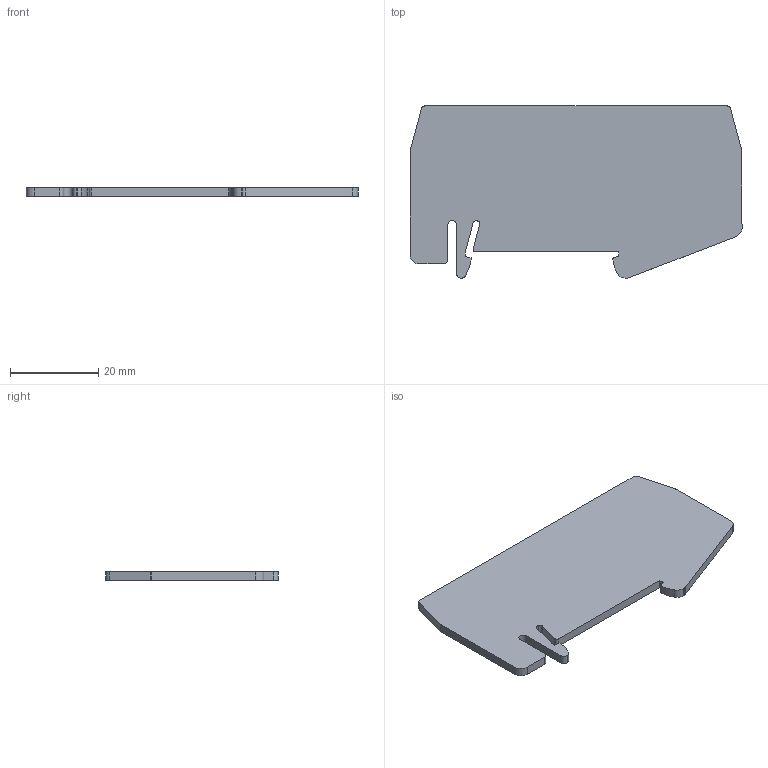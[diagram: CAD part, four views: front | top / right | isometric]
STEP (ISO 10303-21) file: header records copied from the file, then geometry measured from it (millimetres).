
FILE_DESCRIPTION(('OneSpaceDesigner STEP Export'),'2;1');
FILE_NAME('3030789_atp_st_twin_select.stp','2004-10-01T14:07:01',(''),(''),'OneSpace Designer STEP processor (Jan. 2003) for AP203(Solid Model)','OneSpace Designer 12.01C 26-Mar-2004 (C) CoCreate Software GmbH','');
FILE_SCHEMA(('CONFIG_CONTROL_DESIGN'));
Length unit declared in the file: millimetre
Products named in the file (2): 3030789_atp_st_twin_select
Assembly tree (1 placements, depth 2):
  3030789_atp_st_twin_select
    3030789_atp_st_twin_select
Bounding box: 75.2 x 39 x 2 mm (x, y, z)
Volume: 5019.1 mm3; surface area: 5536.6 mm2
Topology: 1 solids, 1 shells, 45 faces, 129 edges, 86 vertices
Faces by surface type: plane 25, cylinder 20
Entity records: 2035 total; most frequent: ORIENTED_EDGE 258, CARTESIAN_POINT 256, DIRECTION 251, EDGE_CURVE 129, VECTOR 89, LINE 89, VERTEX_POINT 86, AXIS2_PLACEMENT_3D 81
